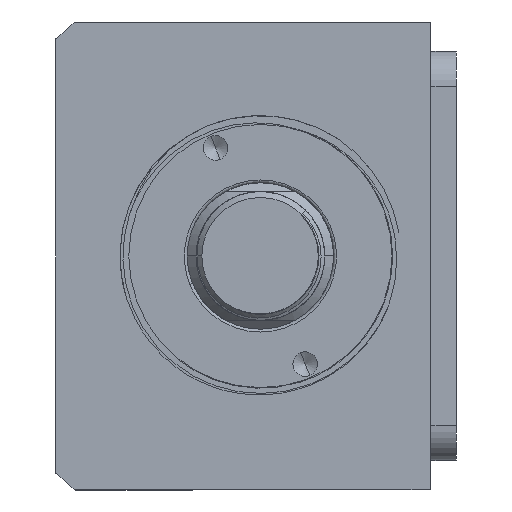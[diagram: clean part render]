
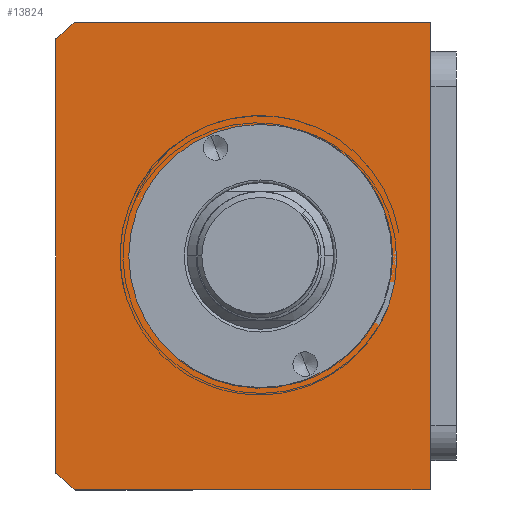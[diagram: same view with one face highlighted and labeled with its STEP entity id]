
A CAD part, front view. The second image highlights one B-rep face of the part: STEP entity #13824.
In plain terms, the highlighted planar face has unit normal (0, -1, 0) as drawn and (0, 0, 1) by its records, which use the part's own axes.
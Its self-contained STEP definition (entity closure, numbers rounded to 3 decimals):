
#83 = DIRECTION ( 'NONE',  ( 1., 0., 0. ) ) ;
#138 = ORIENTED_EDGE ( 'NONE', *, *, #9156, .T. ) ;
#337 = AXIS2_PLACEMENT_3D ( 'NONE', #7647, #17145, #9030 ) ;
#562 = ORIENTED_EDGE ( 'NONE', *, *, #4817, .T. ) ;
#879 = CARTESIAN_POINT ( 'NONE',  ( 0., 0., 135. ) ) ;
#1261 = CIRCLE ( 'NONE', #13576, 22.5 ) ;
#1513 = VERTEX_POINT ( 'NONE', #5600 ) ;
#1542 = VERTEX_POINT ( 'NONE', #13925 ) ;
#1622 = DIRECTION ( 'NONE',  ( 0., 0., 1. ) ) ;
#1682 = VERTEX_POINT ( 'NONE', #10114 ) ;
#1854 = VERTEX_POINT ( 'NONE', #14866 ) ;
#2853 = DIRECTION ( 'NONE',  ( 1., 0., 0. ) ) ;
#3255 = EDGE_CURVE ( 'NONE', #1542, #11474, #14149, .T. ) ;
#3333 = ORIENTED_EDGE ( 'NONE', *, *, #17122, .F. ) ;
#3609 = DIRECTION ( 'NONE',  ( 0., 0., 1. ) ) ;
#3860 = LINE ( 'NONE', #9614, #7026 ) ;
#3883 = CARTESIAN_POINT ( 'NONE',  ( -40., -72.145, 135. ) ) ;
#4817 = EDGE_CURVE ( 'NONE', #5487, #1682, #9581, .T. ) ;
#5308 = CARTESIAN_POINT ( 'NONE',  ( 0., -40.507, 135. ) ) ;
#5480 = FACE_OUTER_BOUND ( 'NONE', #6091, .T. ) ;
#5487 = VERTEX_POINT ( 'NONE', #8051 ) ;
#5536 = EDGE_CURVE ( 'NONE', #11474, #15679, #9356, .T. ) ;
#5600 = CARTESIAN_POINT ( 'NONE',  ( -22.5, -40.507, 135. ) ) ;
#5900 = FACE_BOUND ( 'NONE', #6754, .T. ) ;
#6091 = EDGE_LOOP ( 'NONE', ( #14175, #138, #14570, #562, #11413, #15440 ) ) ;
#6147 = VECTOR ( 'NONE', #10927, 1000. ) ;
#6656 = DIRECTION ( 'NONE',  ( 1., 0., 0. ) ) ;
#6754 = EDGE_LOOP ( 'NONE', ( #17315, #3333 ) ) ;
#7026 = VECTOR ( 'NONE', #2853, 1000. ) ;
#7647 = CARTESIAN_POINT ( 'NONE',  ( 0., -40.507, 135. ) ) ;
#8051 = CARTESIAN_POINT ( 'NONE',  ( 37.094, -75.507, 135. ) ) ;
#8209 = DIRECTION ( 'NONE',  ( 0., 0., 1. ) ) ;
#8252 = CARTESIAN_POINT ( 'NONE',  ( -40., -11.507, 135. ) ) ;
#9030 = DIRECTION ( 'NONE',  ( 1., 0., 0. ) ) ;
#9156 = EDGE_CURVE ( 'NONE', #15679, #1854, #12383, .T. ) ;
#9356 = LINE ( 'NONE', #15084, #6147 ) ;
#9581 = CIRCLE ( 'NONE', #11432, 51. ) ;
#9614 = CARTESIAN_POINT ( 'NONE',  ( -40., -75.507, 135. ) ) ;
#9763 = CARTESIAN_POINT ( 'NONE',  ( 0., -40.507, 135. ) ) ;
#10107 = VECTOR ( 'NONE', #15108, 1000. ) ;
#10114 = CARTESIAN_POINT ( 'NONE',  ( 40., -72.145, 135. ) ) ;
#10927 = DIRECTION ( 'NONE',  ( 0., -1., 0. ) ) ;
#11092 = CARTESIAN_POINT ( 'NONE',  ( 40., -11.507, 135. ) ) ;
#11131 = DIRECTION ( 'NONE',  ( 1., 0., 0. ) ) ;
#11413 = ORIENTED_EDGE ( 'NONE', *, *, #13701, .T. ) ;
#11432 = AXIS2_PLACEMENT_3D ( 'NONE', #9763, #1622, #11131 ) ;
#11474 = VERTEX_POINT ( 'NONE', #8252 ) ;
#11762 = PLANE ( 'NONE',  #17334 ) ;
#11820 = CARTESIAN_POINT ( 'NONE',  ( 22.5, -40.507, 135. ) ) ;
#12383 = CIRCLE ( 'NONE', #337, 51. ) ;
#12593 = EDGE_CURVE ( 'NONE', #13888, #1513, #13871, .T. ) ;
#13124 = DIRECTION ( 'NONE',  ( 1., 0., 0. ) ) ;
#13574 = LINE ( 'NONE', #11092, #17572 ) ;
#13576 = AXIS2_PLACEMENT_3D ( 'NONE', #16342, #8209, #83 ) ;
#13701 = EDGE_CURVE ( 'NONE', #1682, #1542, #13574, .T. ) ;
#13824 = ADVANCED_FACE ( 'NONE', ( #5900, #5480 ), #11762, .T. ) ;
#13871 = CIRCLE ( 'NONE', #14733, 22.5 ) ;
#13888 = VERTEX_POINT ( 'NONE', #11820 ) ;
#13925 = CARTESIAN_POINT ( 'NONE',  ( 40., -11.507, 135. ) ) ;
#14149 = LINE ( 'NONE', #14922, #10107 ) ;
#14175 = ORIENTED_EDGE ( 'NONE', *, *, #5536, .T. ) ;
#14570 = ORIENTED_EDGE ( 'NONE', *, *, #14587, .T. ) ;
#14587 = EDGE_CURVE ( 'NONE', #1854, #5487, #3860, .T. ) ;
#14733 = AXIS2_PLACEMENT_3D ( 'NONE', #5308, #14805, #6656 ) ;
#14805 = DIRECTION ( 'NONE',  ( 0., 0., 1. ) ) ;
#14866 = CARTESIAN_POINT ( 'NONE',  ( -37.094, -75.507, 135. ) ) ;
#14922 = CARTESIAN_POINT ( 'NONE',  ( -40., -11.507, 135. ) ) ;
#15084 = CARTESIAN_POINT ( 'NONE',  ( -40., -11.507, 135. ) ) ;
#15108 = DIRECTION ( 'NONE',  ( -1., 0., 0. ) ) ;
#15174 = DIRECTION ( 'NONE',  ( 0., 1., 0. ) ) ;
#15440 = ORIENTED_EDGE ( 'NONE', *, *, #3255, .T. ) ;
#15679 = VERTEX_POINT ( 'NONE', #3883 ) ;
#16342 = CARTESIAN_POINT ( 'NONE',  ( 0., -40.507, 135. ) ) ;
#17122 = EDGE_CURVE ( 'NONE', #1513, #13888, #1261, .T. ) ;
#17145 = DIRECTION ( 'NONE',  ( 0., 0., 1. ) ) ;
#17315 = ORIENTED_EDGE ( 'NONE', *, *, #12593, .F. ) ;
#17334 = AXIS2_PLACEMENT_3D ( 'NONE', #879, #3609, #13124 ) ;
#17572 = VECTOR ( 'NONE', #15174, 1000. ) ;
